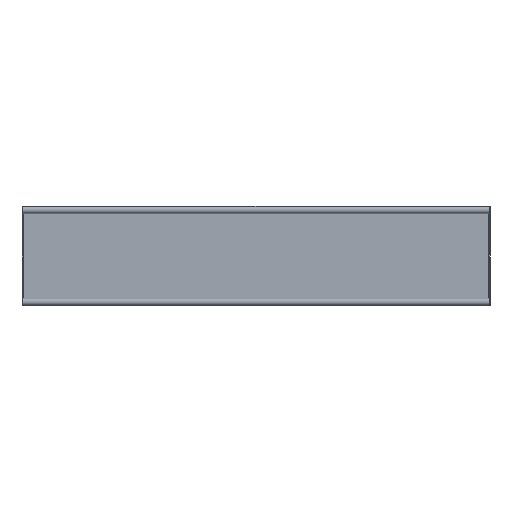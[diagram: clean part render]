
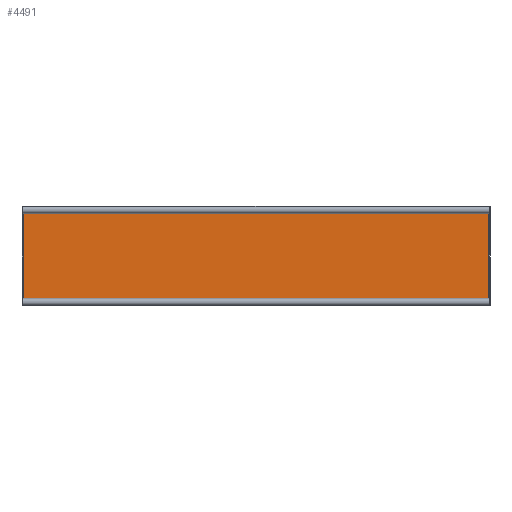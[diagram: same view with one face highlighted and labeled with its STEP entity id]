
A CAD part, front view. The second image highlights one B-rep face of the part: STEP entity #4491.
In plain terms, the highlighted planar face has unit normal (0, -1, 0).
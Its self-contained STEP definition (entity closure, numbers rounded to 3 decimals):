
#120 = VERTEX_POINT ( 'NONE', #1995 ) ;
#173 = DIRECTION ( 'NONE',  ( 0., -1., 0. ) ) ;
#256 = EDGE_CURVE ( 'NONE', #3713, #4073, #2958, .T. ) ;
#408 = ORIENTED_EDGE ( 'NONE', *, *, #256, .F. ) ;
#412 = DIRECTION ( 'NONE',  ( 1., 0., 0. ) ) ;
#627 = EDGE_CURVE ( 'NONE', #120, #2316, #5618, .T. ) ;
#637 = DIRECTION ( 'NONE',  ( 0., 0., 1. ) ) ;
#774 = LINE ( 'NONE', #6914, #9870 ) ;
#923 = CARTESIAN_POINT ( 'NONE',  ( -649., -2., 136.5 ) ) ;
#1034 = EDGE_CURVE ( 'NONE', #2758, #7201, #5241, .T. ) ;
#1051 = EDGE_CURVE ( 'NONE', #120, #3713, #2446, .T. ) ;
#1175 = ORIENTED_EDGE ( 'NONE', *, *, #9295, .F. ) ;
#1192 = DIRECTION ( 'NONE',  ( 0., -1., 0. ) ) ;
#1389 = CARTESIAN_POINT ( 'NONE',  ( 646., -2., -136.5 ) ) ;
#1392 = AXIS2_PLACEMENT_3D ( 'NONE', #3480, #1192, #3376 ) ;
#1410 = ORIENTED_EDGE ( 'NONE', *, *, #627, .T. ) ;
#1440 = DIRECTION ( 'NONE',  ( 0., 0., 1. ) ) ;
#1995 = CARTESIAN_POINT ( 'NONE',  ( -645., -2., -133.5 ) ) ;
#2034 = CIRCLE ( 'NONE', #1392, 5. ) ;
#2067 = DIRECTION ( 'NONE',  ( 0., 1., 0. ) ) ;
#2125 = ORIENTED_EDGE ( 'NONE', *, *, #9630, .F. ) ;
#2238 = EDGE_LOOP ( 'NONE', ( #6668, #6788, #2125, #2535, #1175, #408, #5696, #1410 ) ) ;
#2316 = VERTEX_POINT ( 'NONE', #9298 ) ;
#2446 = CIRCLE ( 'NONE', #6155, 5. ) ;
#2535 = ORIENTED_EDGE ( 'NONE', *, *, #7952, .F. ) ;
#2536 = CARTESIAN_POINT ( 'NONE',  ( 646., -2., 132.5 ) ) ;
#2758 = VERTEX_POINT ( 'NONE', #3621 ) ;
#2807 = AXIS2_PLACEMENT_3D ( 'NONE', #4578, #3076, #5301 ) ;
#2958 = LINE ( 'NONE', #3725, #4999 ) ;
#3076 = DIRECTION ( 'NONE',  ( 0., -1., 0. ) ) ;
#3249 = DIRECTION ( 'NONE',  ( 0., 0., 1. ) ) ;
#3376 = DIRECTION ( 'NONE',  ( 0., 0., 1. ) ) ;
#3480 = CARTESIAN_POINT ( 'NONE',  ( 649., -2., 136.5 ) ) ;
#3621 = CARTESIAN_POINT ( 'NONE',  ( 646., -2., -132.5 ) ) ;
#3656 = AXIS2_PLACEMENT_3D ( 'NONE', #923, #173, #3249 ) ;
#3713 = VERTEX_POINT ( 'NONE', #6763 ) ;
#3725 = CARTESIAN_POINT ( 'NONE',  ( -646., -2., -136.5 ) ) ;
#3909 = VECTOR ( 'NONE', #637, 1000. ) ;
#4073 = VERTEX_POINT ( 'NONE', #9416 ) ;
#4337 = PLANE ( 'NONE',  #9213 ) ;
#4491 = ADVANCED_FACE ( 'NONE', ( #8048 ), #4337, .F. ) ;
#4578 = CARTESIAN_POINT ( 'NONE',  ( 649., -2., -136.5 ) ) ;
#4999 = VECTOR ( 'NONE', #5338, 1000. ) ;
#5241 = LINE ( 'NONE', #1389, #3909 ) ;
#5301 = DIRECTION ( 'NONE',  ( 0., 0., 1. ) ) ;
#5325 = DIRECTION ( 'NONE',  ( 0., -1., 0. ) ) ;
#5338 = DIRECTION ( 'NONE',  ( 0., 0., 1. ) ) ;
#5618 = LINE ( 'NONE', #8743, #6465 ) ;
#5696 = ORIENTED_EDGE ( 'NONE', *, *, #1051, .F. ) ;
#6155 = AXIS2_PLACEMENT_3D ( 'NONE', #6772, #5325, #1440 ) ;
#6465 = VECTOR ( 'NONE', #412, 1000. ) ;
#6470 = CARTESIAN_POINT ( 'NONE',  ( 645., -2., 133.5 ) ) ;
#6540 = CIRCLE ( 'NONE', #3656, 5. ) ;
#6645 = EDGE_CURVE ( 'NONE', #2758, #2316, #8116, .T. ) ;
#6668 = ORIENTED_EDGE ( 'NONE', *, *, #6645, .F. ) ;
#6763 = CARTESIAN_POINT ( 'NONE',  ( -646., -2., -132.5 ) ) ;
#6772 = CARTESIAN_POINT ( 'NONE',  ( -649., -2., -136.5 ) ) ;
#6788 = ORIENTED_EDGE ( 'NONE', *, *, #1034, .T. ) ;
#6914 = CARTESIAN_POINT ( 'NONE',  ( -649., -2., 133.5 ) ) ;
#7201 = VERTEX_POINT ( 'NONE', #2536 ) ;
#7236 = CARTESIAN_POINT ( 'NONE',  ( -645., -2., 133.5 ) ) ;
#7395 = CARTESIAN_POINT ( 'NONE',  ( -649., -2., -136.5 ) ) ;
#7952 = EDGE_CURVE ( 'NONE', #9602, #9852, #774, .T. ) ;
#8048 = FACE_OUTER_BOUND ( 'NONE', #2238, .T. ) ;
#8116 = CIRCLE ( 'NONE', #2807, 5. ) ;
#8186 = DIRECTION ( 'NONE',  ( 0., 0., 1. ) ) ;
#8743 = CARTESIAN_POINT ( 'NONE',  ( -649., -2., -133.5 ) ) ;
#8989 = DIRECTION ( 'NONE',  ( 1., 0., 0. ) ) ;
#9213 = AXIS2_PLACEMENT_3D ( 'NONE', #7395, #2067, #8186 ) ;
#9295 = EDGE_CURVE ( 'NONE', #4073, #9602, #6540, .T. ) ;
#9298 = CARTESIAN_POINT ( 'NONE',  ( 645., -2., -133.5 ) ) ;
#9416 = CARTESIAN_POINT ( 'NONE',  ( -646., -2., 132.5 ) ) ;
#9602 = VERTEX_POINT ( 'NONE', #7236 ) ;
#9630 = EDGE_CURVE ( 'NONE', #9852, #7201, #2034, .T. ) ;
#9852 = VERTEX_POINT ( 'NONE', #6470 ) ;
#9870 = VECTOR ( 'NONE', #8989, 1000. ) ;
